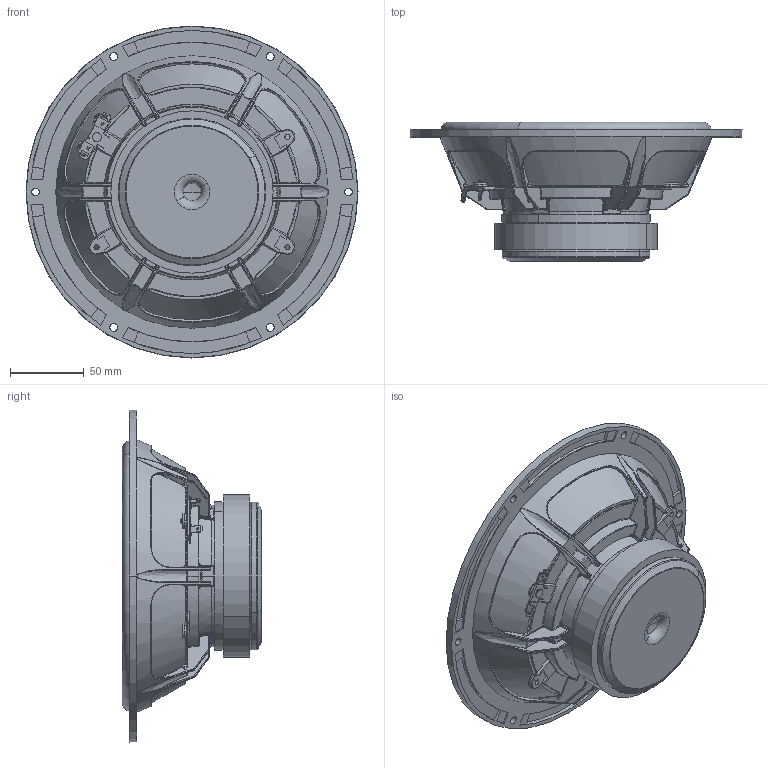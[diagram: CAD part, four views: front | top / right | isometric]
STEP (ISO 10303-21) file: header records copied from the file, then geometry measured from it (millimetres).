
FILE_DESCRIPTION (( 'STEP AP214' ), '1' );
FILE_NAME ('22W-4534G00.STEP', '2020-10-22T09:31:01', ( '' ), ( '' ), 'SwSTEP 2.0', 'SolidWorks 2019', '' );
FILE_SCHEMA (( 'AUTOMOTIVE_DESIGN' ));
Length unit declared in the file: millimetre
Products named in the file (1): 22W-4534G00
Bounding box: 225 x 94.44 x 225 mm (x, y, z)
Volume: 1091420.6 mm3; surface area: 165292.2 mm2
Topology: 1 solids, 9 shells, 1321 faces, 3418 edges, 2005 vertices
Faces by surface type: plane 329, cylinder 289, bspline 259, torus 184, cone 158, sphere 102
Entity records: 64374 total; most frequent: CARTESIAN_POINT 20919, ORIENTED_EDGE 6612, DIRECTION 5947, EDGE_CURVE 3306, AXIS2_PLACEMENT_3D 2480, VERTEX_POINT 2005, CIRCLE 1417, EDGE_LOOP 1365
